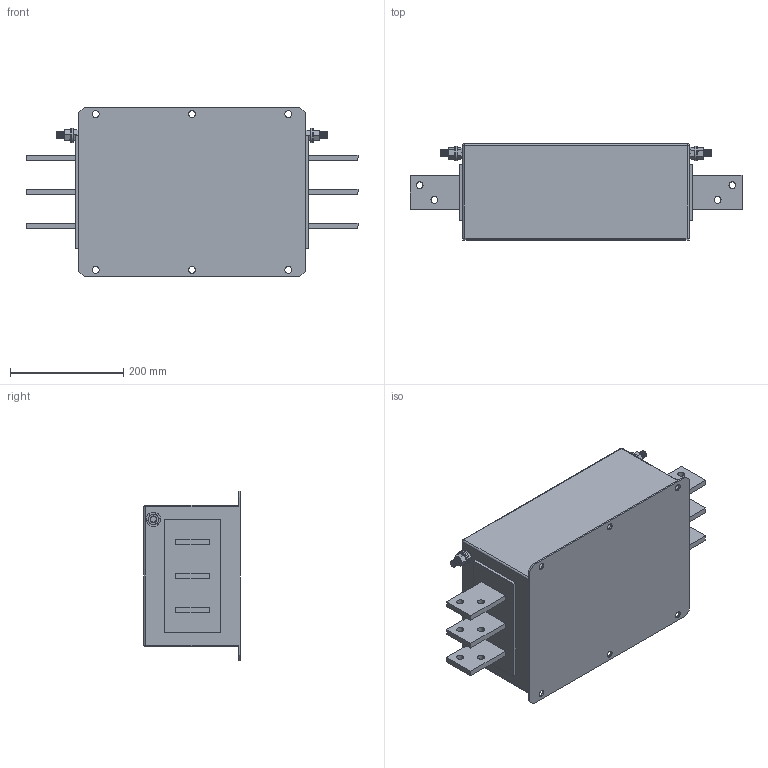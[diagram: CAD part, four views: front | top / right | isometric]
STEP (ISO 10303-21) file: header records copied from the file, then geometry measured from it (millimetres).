
FILE_DESCRIPTION (( 'STEP AP203' ), '1' );
FILE_NAME ('NF-1600.STEP', '2020-10-27T12:57:38', ( '' ), ( '' ), 'SwSTEP 2.0', 'SolidWorks 2017', '' );
FILE_SCHEMA (( 'CONFIG_CONTROL_DESIGN' ));
Length unit declared in the file: millimetre
Products named in the file (6): flat washer narrow_am_B18.22M - Plain washer, 12 mm, narrow; M12x30 Earth post; NF-1600; hex screw_am_B18.6.7M - M12 x 1.75 x 30 Indented HHMS --30S; hex nut style 1_am_B18.2.4.1M - Hex nut, Style 1,  M12 x 1.75 --D-N
Assembly tree (7 placements, depth 3):
  NF-1600
    NF-1600
    M12x30 Earth post  x2
      flat washer narrow_am_B18.22M - Plain washer, 12 mm, narrow
      hex nut style 1_am_B18.2.4.1M - Hex nut, Style 1,  M12 x 1.75 --D-N
      hex screw_am_B18.6.7M - M12 x 1.75 x 30 Indented HHMS --30S
Bounding box: 586 x 170 x 300 mm (x, y, z)
Volume: 17550088.2 mm3; surface area: 570073.6 mm2
Topology: 9 solids, 9 shells, 448 faces, 1122 edges, 696 vertices
Faces by surface type: cone 192, cylinder 154, plane 98, sphere 4
Entity records: 9248 total; most frequent: CARTESIAN_POINT 1625, DIRECTION 1562, ORIENTED_EDGE 1388, EDGE_CURVE 694, AXIS2_PLACEMENT_3D 615, VERTEX_POINT 438, EDGE_LOOP 334, LINE 332
